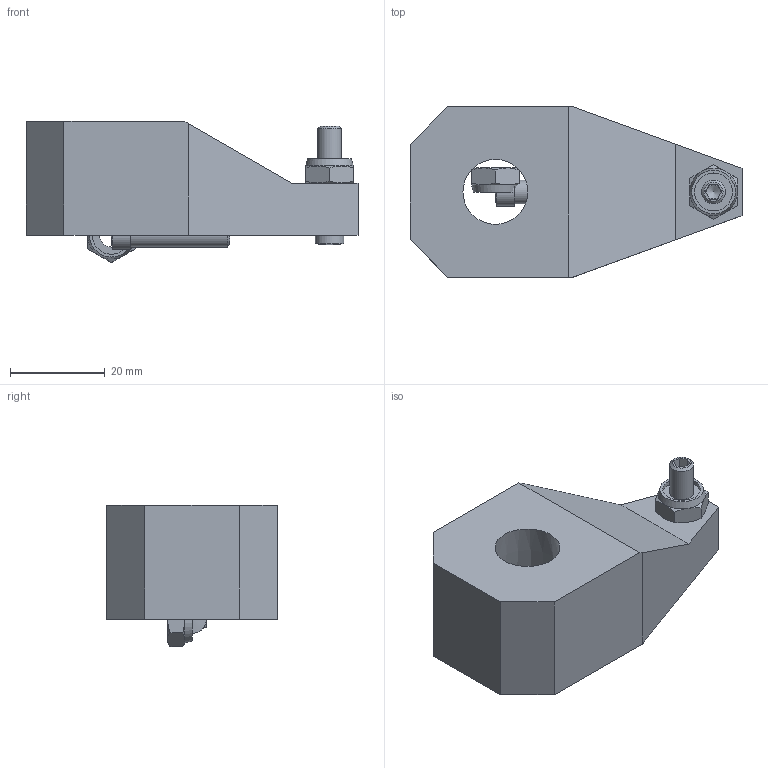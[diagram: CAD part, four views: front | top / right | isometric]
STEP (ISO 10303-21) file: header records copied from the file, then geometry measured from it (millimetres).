
FILE_DESCRIPTION( ( '' ), '1' );
FILE_NAME( 'W:/Catalogue/JSM/jsm32_clamparm/jsm32_clamparm.stp', '2008-05-26T02:55:40', ( '機械事業部産業機器グループ' ), ( '豊和工業株式会社' ), 'XStep 1.0', ' ', ' ' );
FILE_SCHEMA( ( 'CONFIG_CONTROL_DESIGN' ) );
Length unit declared in the file: millimetre
Products named in the file (4): Assem1; 1; 2; 3
Bounding box: 70 x 36 x 29.77 mm (x, y, z)
Volume: 72824 mm3; surface area: 18877.6 mm2
Topology: 6 solids, 6 shells, 120 faces, 274 edges, 170 vertices
Faces by surface type: plane 72, cone 32, cylinder 14, sphere 2
Full cylindrical faces by diameter (mm): 3 x2, 5 x6, 6 x2, 6.5 x2, 8 x2
Entity records: 1822 total; most frequent: CARTESIAN_POINT 383, DIRECTION 258, ORIENTED_EDGE 238, EDGE_CURVE 119, AXIS2_PLACEMENT_3D 99, EDGE_LOOP 80, VERTEX_POINT 80, FACE_OUTER_BOUND 67
